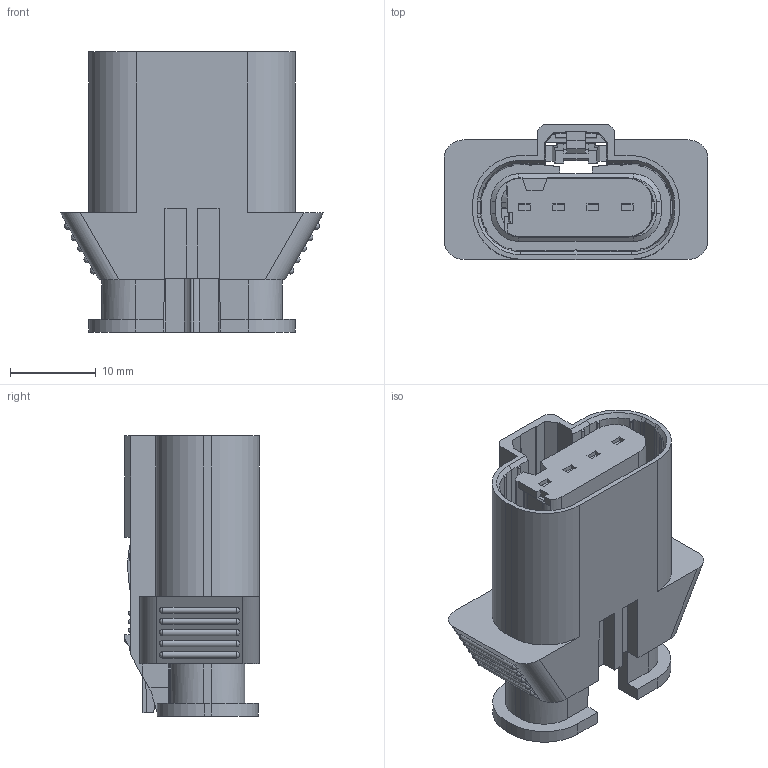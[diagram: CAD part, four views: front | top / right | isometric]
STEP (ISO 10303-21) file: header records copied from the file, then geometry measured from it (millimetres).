
FILE_DESCRIPTION(/* description */ (''),/* implementation_level */ '2;1');
FILE_NAME(/* name */ '35517801-ENV11_01-CONN_stp.stp',/* time_stamp */ '2022-08-09T14:45:37+05:00',/* author */ (''),/* organization */ (''),/* preprocessor_version */ 'ST-DEVELOPER v16',/* originating_system */ 'SIEMENS PLM Software NX 11.0',/* authorisation */ '');
FILE_SCHEMA (('AUTOMOTIVE_DESIGN { 1 0 10303 214 3 1 1 1 }'));
Length unit declared in the file: millimetre
Products named in the file (1): qzs536203559c1o2
Bounding box: 30.74 x 15.75 x 32.75 mm (x, y, z)
Volume: 6805.8 mm3; surface area: 6171.7 mm2
Topology: 1 solids, 1 shells, 563 faces, 1604 edges, 1028 vertices
Faces by surface type: plane 365, cylinder 100, cone 39, sphere 32, bspline 24, torus 3
Full cylindrical faces by diameter (mm): 3.55 x4
Entity records: 18605 total; most frequent: CARTESIAN_POINT 4374, ORIENTED_EDGE 3080, DIRECTION 2781, EDGE_CURVE 1540, LINE 1115, VECTOR 1115, VERTEX_POINT 1000, AXIS2_PLACEMENT_3D 833
